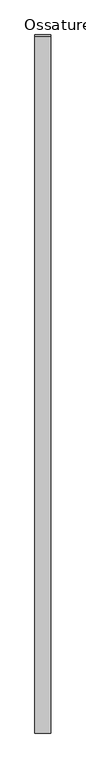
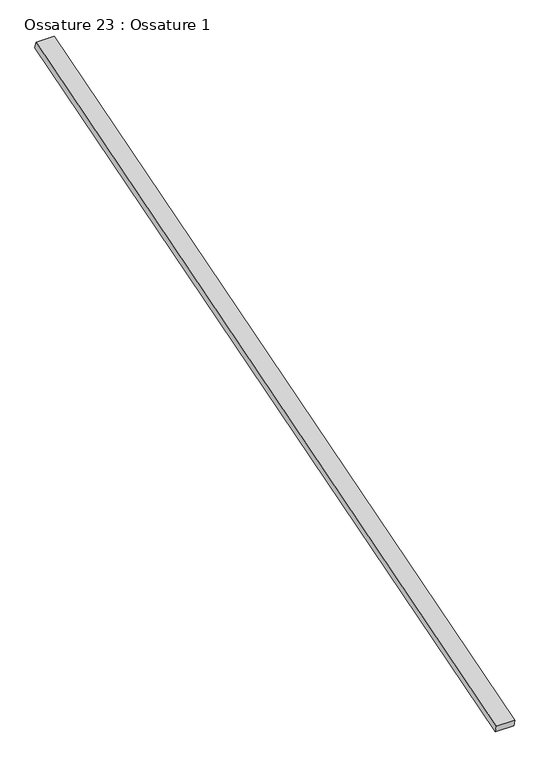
"""IFC4 building model written with IfcOpenShell, lengths in millimetres: beam geometry, Ossature 23 : Ossature 1."""

from ifc_helpers import new_model, si_unit, frame, origin, place, context, project, spatial, polyline, outline, extrude, source, transform, mapped, element, save


def ossature_23_ossature_1_a1dc0935(model_context):
    return source(origin(), model_context, "Body", "SweptSolid", [
        extrude(outline(polyline([(0.0, 0.0), (0.0, -4543.0299679), (-100.0, -4543.0299679), (-100.0, 0.0), (0.0, 0.0)])), frame((5785.0466393, -833.3913565, 8153.6336115), z_axis=(0.0, -0.28734788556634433, 0.9578262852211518), x_axis=(-1.0, 0.0, 0.0)), (0.0, 0.0, 1.0), 40.0),
    ])


if __name__ == "__main__":
    model = new_model("IFC4")
    model_context = context("Model", 3, world=origin())
    ifc_project = project(units=[si_unit("LENGTHUNIT", "METRE", prefix="MILLI")], contexts=[model_context])
    site = spatial("IfcSite", under=ifc_project)
    building = spatial("IfcBuilding", under=site)
    placement = place(None, origin())
    ossature_23_ossature_1_shape = ossature_23_ossature_1_a1dc0935(model_context)
    element("IfcBeam", 1, ObjectType="Ossature 23 : Ossature 1", at=placement, inside=building, context=model_context, shape_type="MappedRepresentation", body=[
        mapped(ossature_23_ossature_1_shape, transform((0.0, 0.0, 0.0), x_axis=(1.0, 0.0, 0.0), y_axis=(0.0, 1.0, 0.0), z_axis=(0.0, 0.0, 1.0))),
    ])
    save(model, "model.ifc")
